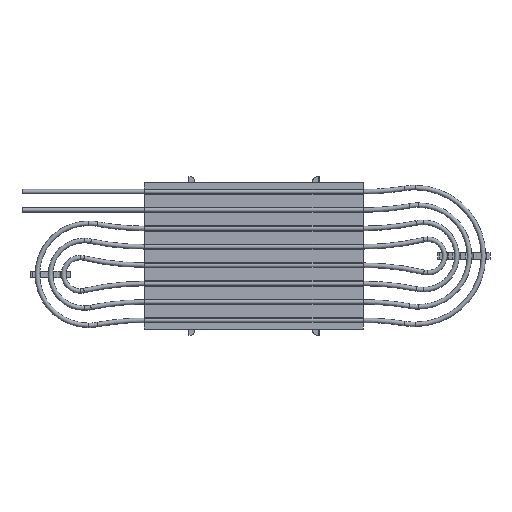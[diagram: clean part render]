
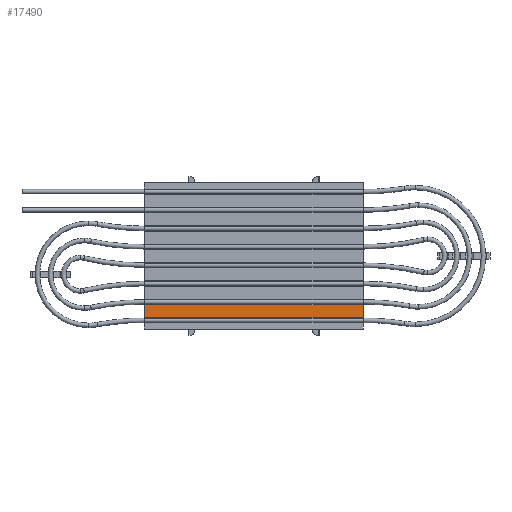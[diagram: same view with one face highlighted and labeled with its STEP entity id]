
A CAD part, top view. The second image highlights one B-rep face of the part: STEP entity #17490.
In plain terms, the highlighted planar face has unit normal (0, 0, 1).
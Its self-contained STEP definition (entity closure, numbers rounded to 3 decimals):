
#22 = CARTESIAN_POINT ( 'NONE',  ( -29., 250., 0. ) ) ;
#245 = CARTESIAN_POINT ( 'NONE',  ( 0.898, 250., 0. ) ) ;
#1569 = CARTESIAN_POINT ( 'NONE',  ( -29., 250., 0. ) ) ;
#2165 = DIRECTION ( 'NONE',  ( 1., 0., 0. ) ) ;
#3102 = VERTEX_POINT ( 'NONE', #16680 ) ;
#3551 = DIRECTION ( 'NONE',  ( 1., 0., 0. ) ) ;
#3932 = DIRECTION ( 'NONE',  ( 0., -1., 0. ) ) ;
#4288 = LINE ( 'NONE', #4571, #7412 ) ;
#4571 = CARTESIAN_POINT ( 'NONE',  ( -29., -250., 0. ) ) ;
#6070 = DIRECTION ( 'NONE',  ( 0., -1., 0. ) ) ;
#6140 = DIRECTION ( 'NONE',  ( -1., 0., 0. ) ) ;
#7412 = VECTOR ( 'NONE', #2165, 1000. ) ;
#7733 = EDGE_CURVE ( 'NONE', #3102, #7947, #4288, .T. ) ;
#7906 = ORIENTED_EDGE ( 'NONE', *, *, #8104, .F. ) ;
#7947 = VERTEX_POINT ( 'NONE', #11977 ) ;
#8104 = EDGE_CURVE ( 'NONE', #15849, #7947, #8726, .T. ) ;
#8320 = VECTOR ( 'NONE', #3932, 1000. ) ;
#8381 = VECTOR ( 'NONE', #3551, 1000. ) ;
#8726 = LINE ( 'NONE', #245, #11858 ) ;
#8883 = CARTESIAN_POINT ( 'NONE',  ( -29., 250., 0. ) ) ;
#8955 = AXIS2_PLACEMENT_3D ( 'NONE', #8883, #14286, #6140 ) ;
#9218 = LINE ( 'NONE', #17718, #8381 ) ;
#10055 = EDGE_CURVE ( 'NONE', #16772, #3102, #18009, .T. ) ;
#10187 = FACE_OUTER_BOUND ( 'NONE', #14456, .T. ) ;
#11318 = CARTESIAN_POINT ( 'NONE',  ( 0.898, 250., 0. ) ) ;
#11858 = VECTOR ( 'NONE', #6070, 1000. ) ;
#11977 = CARTESIAN_POINT ( 'NONE',  ( 0.898, -250., 0. ) ) ;
#12770 = ORIENTED_EDGE ( 'NONE', *, *, #10055, .T. ) ;
#13050 = ORIENTED_EDGE ( 'NONE', *, *, #7733, .T. ) ;
#14286 = DIRECTION ( 'NONE',  ( 0., 0., -1. ) ) ;
#14456 = EDGE_LOOP ( 'NONE', ( #13050, #7906, #14651, #12770 ) ) ;
#14651 = ORIENTED_EDGE ( 'NONE', *, *, #17941, .F. ) ;
#15849 = VERTEX_POINT ( 'NONE', #11318 ) ;
#16680 = CARTESIAN_POINT ( 'NONE',  ( -29., -250., 0. ) ) ;
#16772 = VERTEX_POINT ( 'NONE', #1569 ) ;
#17214 = PLANE ( 'NONE',  #8955 ) ;
#17490 = ADVANCED_FACE ( 'NONE', ( #10187 ), #17214, .F. ) ;
#17718 = CARTESIAN_POINT ( 'NONE',  ( -29., 250., 0. ) ) ;
#17941 = EDGE_CURVE ( 'NONE', #16772, #15849, #9218, .T. ) ;
#18009 = LINE ( 'NONE', #22, #8320 ) ;
